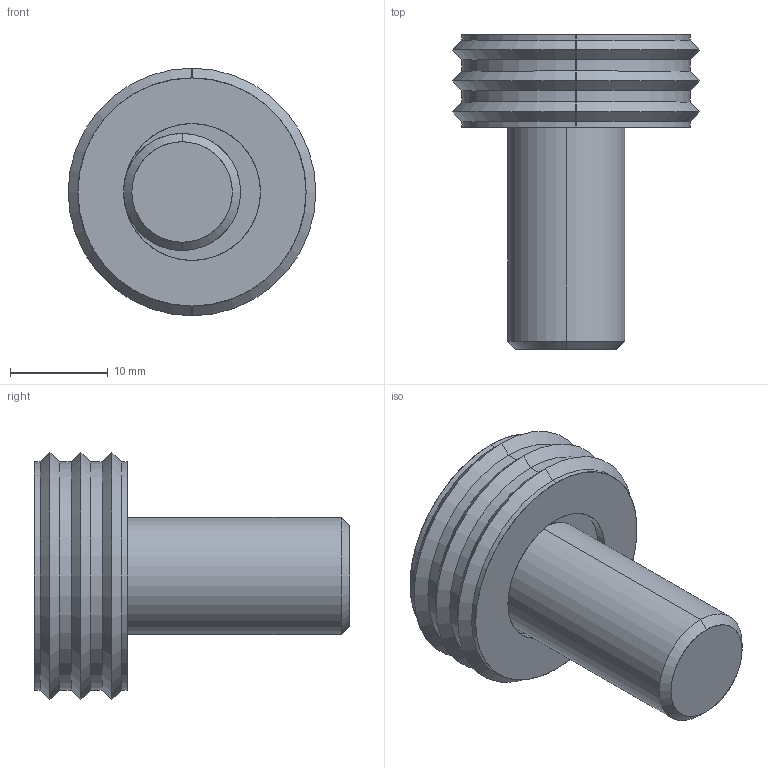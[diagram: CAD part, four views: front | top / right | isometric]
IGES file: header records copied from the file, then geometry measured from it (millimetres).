
Start section: SolidWorks IGES file using analytic representation for surfaces
Global section: file name: E:\Pending\12120_v2\12120_v2_20171107_IGES\12120.W0025.igs; native system: SolidWorks 2017; preprocessor: SolidWorks 2017; author: liam_; date: 171214.131814; units: millimetre
Bounding box: 25.4 x 32.32 x 25.4 mm (x, y, z)
Surface area: 3743 mm2 (no closed solid volume)
Topology: 0 solids, 0 shells, 45 faces, 484 edges, 484 vertices
Faces by surface type: revolution 32, bspline 13
